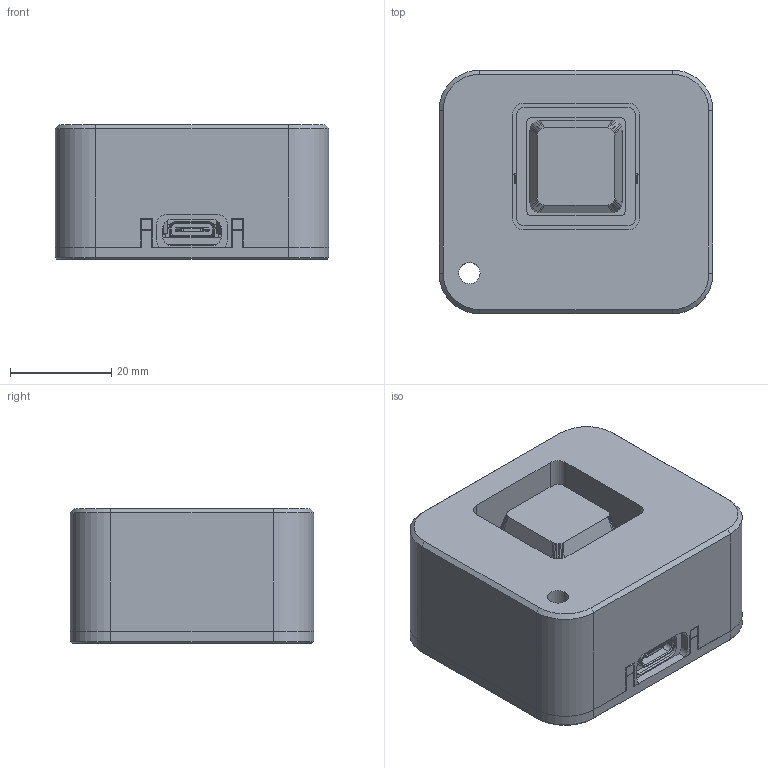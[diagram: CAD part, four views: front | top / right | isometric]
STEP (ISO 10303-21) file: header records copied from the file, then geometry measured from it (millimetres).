
FILE_DESCRIPTION(('Open CASCADE Model'),'2;1');
FILE_NAME('Open CASCADE Shape Model','2026-10-06T20:45:13',('Author'),( 'Open CASCADE'),'Open CASCADE STEP processor 7.9','Open CASCADE 7.9' ,'Unknown');
FILE_SCHEMA(('AUTOMOTIVE_DESIGN { 1 0 10303 214 1 1 1 1 }'));
Length unit declared in the file: millimetre
Products named in the file (12): AirGap_Paste_Pocket_Recess; 01_shell; 02_base; 03_keycap; 04_halo; 05_mx_plate; 07_xiao_wedge; 06_lightguide_left; 06_lightguide_right; XIAO_official_reference; Flat_FPC_antenna_envelope; MX_dimensional_envelope
Assembly tree (11 placements, depth 2):
  AirGap_Paste_Pocket_Recess
    01_shell
    02_base
    03_keycap
    04_halo
    05_mx_plate
    07_xiao_wedge
    06_lightguide_left
    06_lightguide_right
    XIAO_official_reference
    Flat_FPC_antenna_envelope
    MX_dimensional_envelope
Bounding box: 54 x 48 x 26.6 mm (x, y, z)
Volume: 29990 mm3; surface area: 32802.8 mm2
Topology: 48 solids, 53 shells, 1473 faces, 3813 edges, 2481 vertices
Faces by surface type: plane 1042, cylinder 277, bspline 117, cone 19, torus 12, sphere 6
Full cylindrical faces by diameter (mm): 0.5 x3, 0.6 x2, 0.75 x14, 1.524 x8, 1.72 x1, 1.86 x1, 2 x2, 3.4 x6, 4.2 x2, 5.3 x1
Entity records: 95285 total; most frequent: CARTESIAN_POINT 19630, DIRECTION 13376, LINE 9118, VECTOR 9118, ORIENTED_EDGE 7610, PCURVE 7610, DEFINITIONAL_REPRESENTATION 7610, EDGE_CURVE 3805
